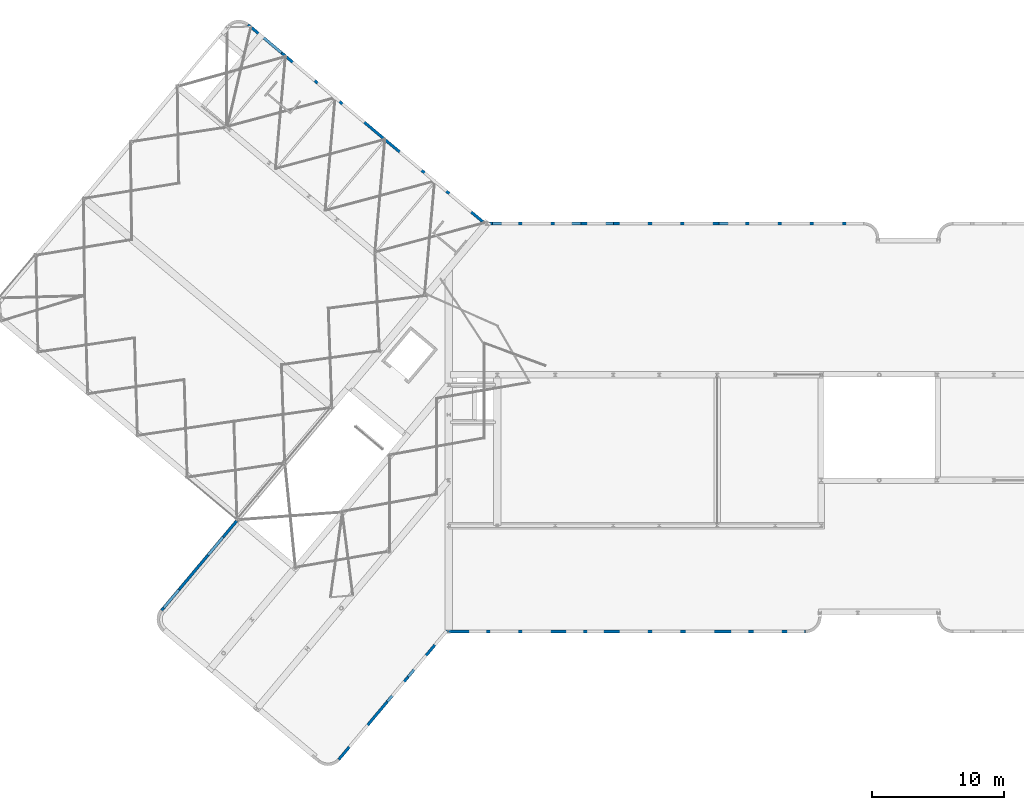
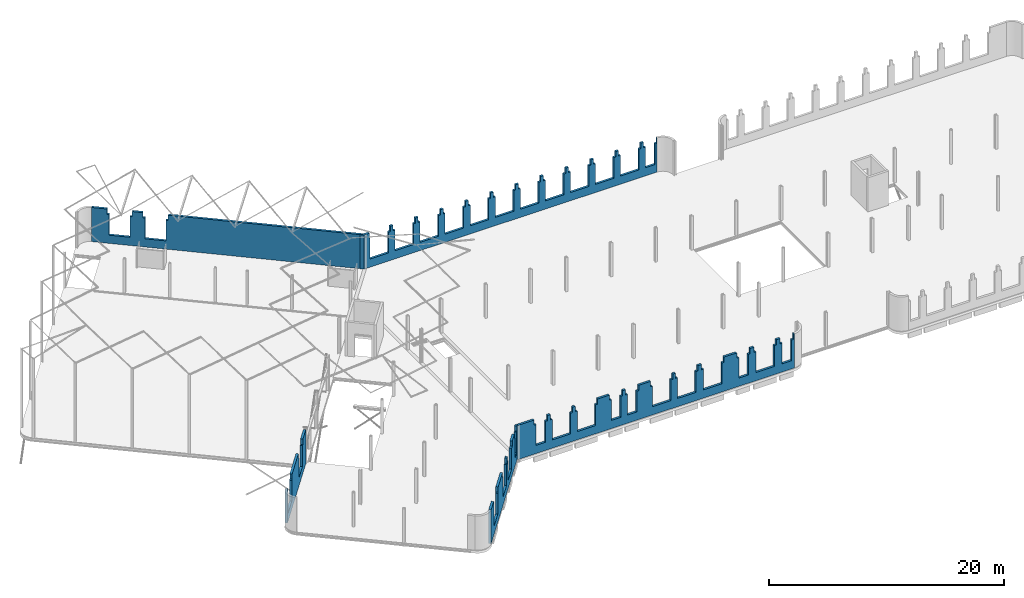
# One storey, part 24 of 25: 5 walls.
"""IFC2X3 building model written with IfcOpenShell, lengths in millimetres."""

from ifc_helpers import new_model, entity, si_unit, converted_unit, derived_unit, direction, frame, origin, place, context, subcontext, project, spatial, faceted_brep, material, layer, layer_set, type_object, element, save


model = new_model("IFC2X3")

# Units and contexts
model_context = context("Model", 3, precision=0.01, world=origin(), true_north=direction((6.123031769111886e-17, 1.0)))
body_context = subcontext(model_context, "Body", "Model", "MODEL_VIEW")
ifc_project = project(units=[si_unit("LENGTHUNIT", "METRE", prefix="MILLI"), si_unit("AREAUNIT", "SQUARE_METRE"), si_unit("VOLUMEUNIT", "CUBIC_METRE"), derived_unit("MASSDENSITYUNIT", [(si_unit("MASSUNIT", "GRAM", prefix="KILO"), 1), (si_unit("LENGTHUNIT", "METRE"), -3)]), si_unit("MASSUNIT", "GRAM", prefix="KILO"), converted_unit("PLANEANGLEUNIT", "DEGREE", entity("IfcPlaneAngleMeasure", 0.017453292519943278), si_unit("PLANEANGLEUNIT", "RADIAN"), dimensions=[0, 0, 0, 0, 0, 0, 0])], contexts=[model_context])

# Site, building, storey
site_placement = place(None, origin())
site = spatial("IfcSite", under=ifc_project, at=site_placement, Name="Default", CompositionType="ELEMENT")
building_placement = place(site_placement, origin())
building = spatial("IfcBuilding", under=site, at=building_placement, Name="AT constructie", CompositionType="ELEMENT")
storey_placement = place(building_placement, frame((0.0, 0.0, 3864.0)))
storey = spatial("IfcBuildingStorey", under=building, at=storey_placement, Name="01 eerste verdieping", CompositionType="ELEMENT", Elevation=3864.0)

# Walls
ifc_material = material(Name="f1_kalkzandsteen_CS20")
ifc_layer = layer(ifc_material, 214.0)
ifc_layer_set = layer_set([ifc_layer], Name="Basic Wall:NLRS_22_WA_kalkzandsteen 214_CS20_gen_AT")
wall_type = type_object("IfcWallType", Name="NLRS_22_WA_kalkzandsteen 214_CS20_gen_AT", PredefinedType="STANDARD", material=ifc_layer_set)
wall_1_placement = place(storey_placement, frame((43613.949732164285, 42764.04350852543, -50.0)))
element("IfcWall", 1, at=wall_1_placement, inside=storey, type_object=wall_type, Name="Basic Wall:NLRS_22_WA_kalkzandsteen 214_CS20_gen_AT", ObjectType="Basic Wall:NLRS_22_WA_kalkzandsteen 214_CS20_gen_AT", context=body_context, shape_type="Brep", body=[
    faceted_brep([(255.03526881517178, -107.0, 0.0), (29032.924898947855, -107.0, 0.0), (29032.924898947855, -107.0, 3544.0), (29027.92489894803, -107.0, 3544.0), (29027.92489894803, -107.0, 3000.0), (28837.924898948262, -107.0, 3000.0), (28837.924898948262, -107.0, 850.0), (27907.924898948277, -107.0, 850.0), (27907.924898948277, -107.0, 3000.0), (27717.924898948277, -107.0, 3000.0), (27717.924898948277, -107.0, 3544.0), (27447.924898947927, -107.0, 3544.0), (27447.924898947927, -107.0, 3000.0), (27257.92489894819, -107.0, 3000.0), (27257.92489894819, -107.0, 850.0), (25447.924898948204, -107.0, 850.0), (25447.924898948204, -107.0, 3000.0), (25257.924898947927, -107.0, 3000.0), (25257.924898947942, -107.0, 3544.0), (24987.924898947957, -107.0, 3544.0), (24987.924898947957, -107.0, 3000.0), (24797.92489894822, -107.0, 3000.0), (24797.92489894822, -107.0, 850.0), (22987.92489894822, -107.0, 850.0), (22987.92489894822, -107.0, 3000.0), (22797.924898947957, -107.0, 3000.0), (22797.924898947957, -107.0, 3544.0), (22527.924898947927, -107.0, 3544.0), (22527.924898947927, -107.0, 3000.0), (22337.92489894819, -107.0, 3000.0), (22337.92489894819, -107.0, 850.0), (20527.92489894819, -107.0, 850.0), (20527.92489894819, -107.0, 3000.0), (20337.92489894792, -107.0, 3000.0), (20337.92489894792, -107.0, 3544.0), (20067.924898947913, -107.0, 3544.0), (20067.924898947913, -107.0, 3000.0), (19877.924898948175, -107.0, 3000.0), (19877.924898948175, -107.0, 850.0), (18067.924898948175, -107.0, 850.0), (18067.924898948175, -107.0, 3000.0), (17877.924898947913, -107.0, 3000.0), (17877.924898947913, -107.0, 3544.0), (17607.924898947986, -107.0, 3544.0), (17607.924898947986, -107.0, 3000.0), (17417.924898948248, -107.0, 3000.0), (17417.924898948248, -107.0, 850.0), (15607.924898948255, -107.0, 850.0), (15607.924898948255, -107.0, 3000.0), (15417.924898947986, -107.0, 3000.0), (15417.924898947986, -107.0, 3544.0), (15147.924898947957, -107.0, 3544.0), (15147.924898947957, -107.0, 3000.0), (14957.924898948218, -107.0, 3000.0), (14957.924898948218, -107.0, 850.0), (13147.924898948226, -107.0, 850.0), (13147.924898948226, -107.0, 3000.0), (12957.924898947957, -107.0, 3000.0), (12957.924898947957, -107.0, 3544.0), (12687.924898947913, -107.0, 3544.0), (12687.924898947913, -107.0, 3000.0), (12497.924898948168, -107.0, 3000.0), (12497.924898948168, -107.0, 850.0), (10687.924898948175, -107.0, 850.0), (10687.924898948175, -107.0, 3000.0), (10497.924898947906, -107.0, 3000.0), (10497.924898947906, -107.0, 3544.0), (10227.924898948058, -107.0, 3544.0), (10227.924898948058, -107.0, 3000.0), (10037.924898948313, -107.0, 3000.0), (10037.924898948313, -107.0, 850.0), (8227.92489894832, -107.0, 850.0), (8227.92489894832, -107.0, 3000.0), (8037.92489894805, -107.0, 3000.0), (8037.92489894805, -107.0, 3544.0), (7767.924898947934, -107.0, 3544.0), (7767.924898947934, -107.0, 3000.0), (7577.924898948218, -107.0, 3000.0), (7577.924898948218, -107.0, 850.0), (5767.924898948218, -107.0, 850.0), (5767.924898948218, -107.0, 3000.0), (5577.924898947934, -107.0, 3000.0), (5577.924898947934, -107.0, 3544.0), (5307.924898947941, -107.0, 3544.0), (5307.924898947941, -107.0, 3000.0), (5117.924898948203, -107.0, 3000.0), (5117.924898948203, -107.0, 850.0), (3307.9248989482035, -107.0, 850.0), (3307.9248989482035, -107.0, 3000.0), (3117.9248989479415, -107.0, 3000.0), (3117.9248989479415, -107.0, 3544.0), (2847.924898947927, -107.0, 3544.0), (2847.924898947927, -107.0, 3000.0), (2657.9248989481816, -107.0, 3000.0), (2657.9248989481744, -107.0, 850.0), (847.9248989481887, -107.0, 850.0), (847.9248989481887, -107.0, 3000.0), (776.8000558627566, -107.0, 3000.0), (776.8000558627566, -107.0, 3544.0), (255.03526881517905, -107.0, 3544.0), (29032.924898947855, 107.0, 0.0), (332.9248989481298, 107.0, 0.0), (0.0, 107.0, 0.0), (0.0, 107.0, 3544.0), (332.92489894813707, 107.0, 3544.0), (776.8000558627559, 107.0, 3544.0), (776.8000558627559, 107.0, 3000.0), (847.924898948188, 107.0, 3000.0), (847.924898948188, 107.0, 850.0), (2657.9248989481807, 107.0, 850.0), (2657.9248989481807, 107.0, 3000.0), (2847.924898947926, 107.0, 3000.0), (2847.924898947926, 107.0, 3544.0), (3117.9248989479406, 107.0, 3544.0), (3117.9248989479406, 107.0, 3000.0), (3307.9248989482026, 107.0, 3000.0), (3307.9248989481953, 107.0, 850.0), (5117.924898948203, 107.0, 850.0), (5117.924898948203, 107.0, 3000.0), (5307.924898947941, 107.0, 3000.0), (5307.924898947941, 107.0, 3544.0), (5577.924898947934, 107.0, 3544.0), (5577.924898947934, 107.0, 3000.0), (5767.924898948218, 107.0, 3000.0), (5767.92489894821, 107.0, 850.0), (7577.924898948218, 107.0, 850.0), (7577.924898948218, 107.0, 3000.0), (7767.924898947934, 107.0, 3000.0), (7767.924898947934, 107.0, 3544.0), (8037.92489894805, 107.0, 3544.0), (8037.92489894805, 107.0, 3000.0), (8227.924898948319, 107.0, 3000.0), (8227.924898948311, 107.0, 850.0), (10037.924898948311, 107.0, 850.0), (10037.924898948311, 107.0, 3000.0), (10227.924898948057, 107.0, 3000.0), (10227.924898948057, 107.0, 3544.0), (10497.924898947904, 107.0, 3544.0), (10497.924898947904, 107.0, 3000.0), (10687.924898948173, 107.0, 3000.0), (10687.924898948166, 107.0, 850.0), (12497.924898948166, 107.0, 850.0), (12497.924898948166, 107.0, 3000.0), (12687.924898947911, 107.0, 3000.0), (12687.924898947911, 107.0, 3544.0), (12957.924898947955, 107.0, 3544.0), (12957.924898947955, 107.0, 3000.0), (13147.924898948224, 107.0, 3000.0), (13147.92489894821, 107.0, 850.0), (14957.924898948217, 107.0, 850.0), (14957.924898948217, 107.0, 3000.0), (15147.924898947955, 107.0, 3000.0), (15147.924898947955, 107.0, 3544.0), (15417.924898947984, 107.0, 3544.0), (15417.924898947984, 107.0, 3000.0), (15607.924898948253, 107.0, 3000.0), (15607.924898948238, 107.0, 850.0), (17417.924898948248, 107.0, 850.0), (17417.924898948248, 107.0, 3000.0), (17607.924898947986, 107.0, 3000.0), (17607.924898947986, 107.0, 3544.0), (17877.924898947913, 107.0, 3544.0), (17877.924898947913, 107.0, 3000.0), (18067.924898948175, 107.0, 3000.0), (18067.924898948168, 107.0, 850.0), (19877.924898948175, 107.0, 850.0), (19877.924898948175, 107.0, 3000.0), (20067.924898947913, 107.0, 3000.0), (20067.924898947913, 107.0, 3544.0), (20337.92489894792, 107.0, 3544.0), (20337.92489894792, 107.0, 3000.0), (20527.92489894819, 107.0, 3000.0), (20527.924898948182, 107.0, 850.0), (22337.92489894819, 107.0, 850.0), (22337.92489894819, 107.0, 3000.0), (22527.924898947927, 107.0, 3000.0), (22527.924898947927, 107.0, 3544.0), (22797.924898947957, 107.0, 3544.0), (22797.924898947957, 107.0, 3000.0), (22987.92489894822, 107.0, 3000.0), (22987.92489894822, 107.0, 850.0), (24797.92489894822, 107.0, 850.0), (24797.92489894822, 107.0, 3000.0), (24987.924898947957, 107.0, 3000.0), (24987.924898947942, 107.0, 3544.0), (25257.924898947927, 107.0, 3544.0), (25257.924898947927, 107.0, 3000.0), (25447.924898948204, 107.0, 3000.0), (25447.924898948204, 107.0, 850.0), (27257.92489894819, 107.0, 850.0), (27257.92489894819, 107.0, 3000.0), (27447.924898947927, 107.0, 3000.0), (27447.924898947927, 107.0, 3544.0), (27717.924898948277, 107.0, 3544.0), (27717.924898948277, 107.0, 3000.0), (27907.924898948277, 107.0, 3000.0), (27907.924898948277, 107.0, 850.0), (28837.924898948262, 107.0, 850.0), (28837.924898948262, 107.0, 3000.0), (29027.92489894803, 107.0, 3000.0), (29027.92489894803, 107.0, 3544.0), (29032.924898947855, 107.0, 3544.0)], [[[0, 1, 2, 3, 4, 5, 6, 7, 8, 9, 10, 11, 12, 13, 14, 15, 16, 17, 18, 19, 20, 21, 22, 23, 24, 25, 26, 27, 28, 29, 30, 31, 32, 33, 34, 35, 36, 37, 38, 39, 40, 41, 42, 43, 44, 45, 46, 47, 48, 49, 50, 51, 52, 53, 54, 55, 56, 57, 58, 59, 60, 61, 62, 63, 64, 65, 66, 67, 68, 69, 70, 71, 72, 73, 74, 75, 76, 77, 78, 79, 80, 81, 82, 83, 84, 85, 86, 87, 88, 89, 90, 91, 92, 93, 94, 95, 96, 97, 98, 99]], [[100, 101, 102, 103, 104, 105, 106, 107, 108, 109, 110, 111, 112, 113, 114, 115, 116, 117, 118, 119, 120, 121, 122, 123, 124, 125, 126, 127, 128, 129, 130, 131, 132, 133, 134, 135, 136, 137, 138, 139, 140, 141, 142, 143, 144, 145, 146, 147, 148, 149, 150, 151, 152, 153, 154, 155, 156, 157, 158, 159, 160, 161, 162, 163, 164, 165, 166, 167, 168, 169, 170, 171, 172, 173, 174, 175, 176, 177, 178, 179, 180, 181, 182, 183, 184, 185, 186, 187, 188, 189, 190, 191, 192, 193, 194, 195, 196, 197, 198, 199, 200, 201]], [[1, 0, 102, 101, 100]], [[2, 1, 100, 201]], [[18, 185, 184, 19]], [[94, 109, 108, 95]], [[109, 94, 93, 110]], [[95, 108, 107, 96]], [[0, 99, 103, 102]], [[88, 87, 116, 115]], [[86, 85, 118, 117]], [[80, 79, 124, 123]], [[78, 77, 126, 125]], [[72, 71, 132, 131]], [[70, 69, 134, 133]], [[64, 63, 140, 139]], [[62, 61, 142, 141]], [[56, 55, 148, 147]], [[54, 53, 150, 149]], [[48, 47, 156, 155]], [[46, 45, 158, 157]], [[40, 39, 164, 163]], [[38, 37, 166, 165]], [[32, 31, 172, 171]], [[30, 29, 174, 173]], [[24, 23, 180, 179]], [[22, 21, 182, 181]], [[16, 15, 188, 187]], [[14, 13, 190, 189]], [[116, 87, 86, 117]], [[124, 79, 78, 125]], [[132, 71, 70, 133]], [[140, 63, 62, 141]], [[148, 55, 54, 149]], [[156, 47, 46, 157]], [[164, 39, 38, 165]], [[172, 31, 30, 173]], [[180, 23, 22, 181]], [[188, 15, 14, 189]], [[17, 186, 185, 18]], [[191, 12, 11, 192]], [[186, 17, 16, 187]], [[25, 178, 177, 26]], [[183, 20, 19, 184]], [[178, 25, 24, 179]], [[33, 170, 169, 34]], [[175, 28, 27, 176]], [[170, 33, 32, 171]], [[41, 162, 161, 42]], [[167, 36, 35, 168]], [[162, 41, 40, 163]], [[49, 154, 153, 50]], [[159, 44, 43, 160]], [[154, 49, 48, 155]], [[57, 146, 145, 58]], [[151, 52, 51, 152]], [[146, 57, 56, 147]], [[65, 138, 137, 66]], [[143, 60, 59, 144]], [[138, 65, 64, 139]], [[73, 130, 129, 74]], [[135, 68, 67, 136]], [[130, 73, 72, 131]], [[81, 122, 121, 82]], [[127, 76, 75, 128]], [[122, 81, 80, 123]], [[89, 114, 113, 90]], [[119, 84, 83, 120]], [[114, 89, 88, 115]], [[97, 106, 105, 98]], [[111, 92, 91, 112]], [[106, 97, 96, 107]], [[6, 5, 198, 197]], [[7, 6, 197, 196]], [[8, 7, 196, 195]], [[9, 194, 193, 10]], [[199, 4, 3, 200]], [[194, 9, 8, 195]], [[4, 199, 198, 5]], [[92, 111, 110, 93]], [[84, 119, 118, 85]], [[76, 127, 126, 77]], [[68, 135, 134, 69]], [[60, 143, 142, 61]], [[52, 151, 150, 53]], [[44, 159, 158, 45]], [[36, 167, 166, 37]], [[28, 175, 174, 29]], [[20, 183, 182, 21]], [[12, 191, 190, 13]], [[26, 177, 176, 27]], [[34, 169, 168, 35]], [[42, 161, 160, 43]], [[50, 153, 152, 51]], [[58, 145, 144, 59]], [[66, 137, 136, 67]], [[74, 129, 128, 75]], [[82, 121, 120, 83]], [[90, 113, 112, 91]], [[2, 201, 200, 3]], [[192, 11, 10, 193]], [[103, 99, 98, 105, 104]]]),
])
wall_2_placement = place(storey_placement, frame((25914.3541657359, 57862.446200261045, -50.0), z_axis=(0.0, 0.0, 1.0), x_axis=(0.7660444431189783, -0.642787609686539, 0.0)))
element("IfcWall", 2, at=wall_2_placement, inside=storey, type_object=wall_type, Name="Basic Wall:NLRS_22_WA_kalkzandsteen 214_CS20_gen_AT", ObjectType="Basic Wall:NLRS_22_WA_kalkzandsteen 214_CS20_gen_AT", context=body_context, shape_type="Brep", body=[
    faceted_brep([(0.0, -107.0, 0.0), (23194.964731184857, -107.0, 0.0), (23194.964731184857, -107.0, 3544.0), (6610.0, -107.0, 3544.0), (6610.0, -107.0, 3000.0), (6420.0, -107.0, 3000.0), (6420.0, -107.0, 850.0), (4610.0, -107.0, 850.0), (4610.0, -107.0, 3000.0), (4420.0, -107.0, 3000.0), (4420.0, -107.0, 3544.0), (3510.0, -107.0, 3544.0), (3510.0, -107.0, 3000.0), (3320.0, -107.0, 3000.0), (3320.0, -107.0, 850.0), (1510.0, -107.0, 850.0), (1510.0, -107.0, 3000.0), (1320.0, -107.0, 3000.0), (1320.0, -107.0, 3544.0), (0.0, -107.0, 3544.0), (23450.0, 107.0, 0.0), (0.0, 107.0, 0.0), (0.0, 107.0, 3544.0), (1320.0, 107.0, 3544.0), (1320.0, 107.0, 3000.0), (1510.0, 107.0, 3000.0), (1510.0, 107.0, 850.0), (3320.0, 107.0, 850.0), (3320.0, 107.0, 3000.0), (3510.0, 107.0, 3000.0), (3510.0, 107.0, 3544.0), (4420.0, 107.0, 3544.0), (4420.0, 107.0, 3000.0), (4610.0, 107.0, 3000.0), (4610.0, 107.0, 850.0), (6420.0, 107.0, 850.0), (6420.0, 107.0, 3000.0), (6610.0, 107.0, 3000.0), (6610.0, 107.0, 3544.0), (23450.0, 107.0, 3544.0)], [[[0, 1, 2, 3, 4, 5, 6, 7, 8, 9, 10, 11, 12, 13, 14, 15, 16, 17, 18, 19]], [[20, 21, 22, 23, 24, 25, 26, 27, 28, 29, 30, 31, 32, 33, 34, 35, 36, 37, 38, 39]], [[1, 0, 21, 20]], [[2, 39, 38, 3]], [[0, 19, 22, 21]], [[2, 1, 20, 39]], [[8, 7, 34, 33]], [[6, 5, 36, 35]], [[34, 7, 6, 35]], [[9, 32, 31, 10]], [[37, 4, 3, 38]], [[32, 9, 8, 33]], [[26, 25, 16, 15]], [[27, 26, 15, 14]], [[28, 27, 14, 13]], [[17, 24, 23, 18]], [[29, 12, 11, 30]], [[24, 17, 16, 25]], [[12, 29, 28, 13]], [[4, 37, 36, 5]], [[10, 31, 30, 11]], [[22, 19, 18, 23]]]),
])
wall_3_placement = place(storey_placement, frame((68246.87463111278, 11778.043508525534, -50.0), z_axis=(0.0, 0.0, 1.0), x_axis=(-1.0, 0.0, 0.0)))
element("IfcWall", 3, at=wall_3_placement, inside=storey, type_object=wall_type, Name="Basic Wall:NLRS_22_WA_kalkzandsteen 214_CS20_gen_AT", ObjectType="Basic Wall:NLRS_22_WA_kalkzandsteen 214_CS20_gen_AT", context=body_context, shape_type="Brep", body=[
    faceted_brep([(0.0, -107.0, 0.0), (27064.091421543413, -107.0, 0.0), (27064.091421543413, -107.0, 3544.0), (25555.0, -107.0, 3544.0), (25555.0, -107.0, 3000.0), (25365.0, -107.0, 3000.0), (25365.0, -107.0, 850.0), (24435.0, -107.0, 850.0), (24435.0, -107.0, 3000.0), (24245.0, -107.0, 3000.0), (24245.0, -107.0, 3544.0), (23975.0, -107.0, 3544.0), (23975.0, -107.0, 3000.0), (23785.0, -107.0, 3000.0), (23785.0, -107.0, 850.0), (21975.0, -107.0, 850.0), (21975.0, -107.0, 3000.0), (21785.0, -107.0, 3000.0), (21785.0, -107.0, 3544.0), (21515.0, -107.0, 3544.0), (21515.0, -107.0, 3000.0), (21325.0, -107.0, 3000.0), (21325.0, -107.0, 850.0), (19515.0, -107.0, 850.0), (19515.0, -107.0, 3000.0), (19325.0, -107.0, 3000.0), (19325.0, -107.0, 3544.0), (18175.0, -107.0, 3544.0), (18175.0, -107.0, 3000.0), (17985.0, -107.0, 3000.0), (17985.0, -107.0, 850.0), (17055.0, -107.0, 850.0), (17055.0, -107.0, 3000.0), (16865.0, -107.0, 3000.0), (16865.0, -107.0, 3544.0), (16595.0, -107.0, 3544.0), (16595.0, -107.0, 3000.0), (16405.0, -107.0, 3000.0), (16405.0, -107.0, 850.0), (15475.0, -107.0, 850.0), (15475.0, -107.0, 3000.0), (15285.0, -107.0, 3000.0), (15285.0, -107.0, 3544.0), (14135.0, -107.0, 3544.0), (14135.0, -107.0, 3000.0), (13945.0, -107.0, 3000.0), (13945.0, -107.0, 850.0), (12135.0, -107.0, 850.0), (12135.0, -107.0, 3000.0), (11945.0, -107.0, 3000.0), (11945.0, -107.0, 3544.0), (11675.0, -107.0, 3544.0), (11675.0, -107.0, 3000.0), (11485.0, -107.0, 3000.0), (11485.0, -107.0, 850.0), (9675.0, -107.0, 850.0), (9675.0, -107.0, 3000.0), (9485.0, -107.0, 3000.0), (9485.0, -107.0, 3544.0), (9105.0, -107.0, 3544.0), (9105.0, -107.0, 3000.0), (8915.0, -107.0, 3000.0), (8915.0, -107.0, 850.0), (7105.0, -107.0, 850.0), (7105.0, -107.0, 3000.0), (6915.0, -107.0, 3000.0), (6915.0, -107.0, 3544.0), (5655.0, -107.0, 3544.0), (5655.0, -107.0, 3000.0), (5465.0, -107.0, 3000.0), (5465.0, -107.0, 850.0), (4535.0, -107.0, 850.0), (4535.0, -107.0, 3000.0), (4345.0, -107.0, 3000.0), (4345.0, -107.0, 3544.0), (3965.0, -107.0, 3544.0), (3965.0, -107.0, 3000.0), (3775.0, -107.0, 3000.0), (3775.0, -107.0, 850.0), (1965.0, -107.0, 850.0), (1965.0, -107.0, 3000.0), (1775.0, -107.0, 3000.0), (1775.0, -107.0, 3544.0), (1395.0, -107.0, 3544.0), (1395.0, -107.0, 3000.0), (1205.0, -107.0, 3000.0), (1205.0, -107.0, 850.0), (275.0, -107.0, 850.0), (275.0, -107.0, 3000.0), (85.0, -107.0, 3000.0), (85.0, -107.0, 3544.0), (0.0, -107.0, 3544.0), (27243.658742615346, 107.0, 0.0), (0.0, 107.0, 0.0), (0.0, 107.0, 3544.0), (85.0, 107.0, 3544.0), (85.0, 107.0, 3000.0), (275.0, 107.0, 3000.0), (275.0, 107.0, 850.0), (1205.0, 107.0, 850.0), (1205.0, 107.0, 3000.0), (1395.0, 107.0, 3000.0), (1395.0, 107.0, 3544.0), (1775.0, 107.0, 3544.0), (1775.0, 107.0, 3000.0), (1965.0, 107.0, 3000.0), (1965.0, 107.0, 850.0), (3775.0, 107.0, 850.0), (3775.0, 107.0, 3000.0), (3965.0, 107.0, 3000.0), (3965.0, 107.0, 3544.0), (4345.0, 107.0, 3544.0), (4345.0, 107.0, 3000.0), (4535.0, 107.0, 3000.0), (4535.0, 107.0, 850.0), (5465.0, 107.0, 850.0), (5465.0, 107.0, 3000.0), (5655.0, 107.0, 3000.0), (5655.0, 107.0, 3544.0), (6915.0, 107.0, 3544.0), (6915.0, 107.0, 3000.0), (7105.0, 107.0, 3000.0), (7105.0, 107.0, 850.0), (8915.0, 107.0, 850.0), (8915.0, 107.0, 3000.0), (9105.0, 107.0, 3000.0), (9105.0, 107.0, 3544.0), (9485.0, 107.0, 3544.0), (9485.0, 107.0, 3000.0), (9675.0, 107.0, 3000.0), (9675.0, 107.0, 850.0), (11485.0, 107.0, 850.0), (11485.0, 107.0, 3000.0), (11675.0, 107.0, 3000.0), (11675.0, 107.0, 3544.0), (11945.0, 107.0, 3544.0), (11945.0, 107.0, 3000.0), (12135.0, 107.0, 3000.0), (12135.0, 107.0, 850.0), (13945.0, 107.0, 850.0), (13945.0, 107.0, 3000.0), (14135.0, 107.0, 3000.0), (14135.0, 107.0, 3544.0), (15285.0, 107.0, 3544.0), (15285.0, 107.0, 3000.0), (15475.0, 107.0, 3000.0), (15475.0, 107.0, 850.0), (16405.0, 107.0, 850.0), (16405.0, 107.0, 3000.0), (16595.0, 107.0, 3000.0), (16595.0, 107.0, 3544.0), (16865.0, 107.0, 3544.0), (16865.0, 107.0, 3000.0), (17055.0, 107.0, 3000.0), (17055.0, 107.0, 850.0), (17985.0, 107.0, 850.0), (17985.0, 107.0, 3000.0), (18175.0, 107.0, 3000.0), (18175.0, 107.0, 3544.0), (19325.0, 107.0, 3544.0), (19325.0, 107.0, 3000.0), (19515.0, 107.0, 3000.0), (19515.0, 107.0, 850.0), (21325.0, 107.0, 850.0), (21325.0, 107.0, 3000.0), (21515.0, 107.0, 3000.0), (21515.0, 107.0, 3544.0), (21785.0, 107.0, 3544.0), (21785.0, 107.0, 3000.0), (21975.0, 107.0, 3000.0), (21975.0, 107.0, 850.0), (23785.0, 107.0, 850.0), (23785.0, 107.0, 3000.0), (23975.0, 107.0, 3000.0), (23975.0, 107.0, 3544.0), (24245.0, 107.0, 3544.0), (24245.0, 107.0, 3000.0), (24435.0, 107.0, 3000.0), (24435.0, 107.0, 850.0), (25365.0, 107.0, 850.0), (25365.0, 107.0, 3000.0), (25555.0, 107.0, 3000.0), (25555.0, 107.0, 3544.0), (27243.658742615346, 107.0, 3544.0)], [[[0, 1, 2, 3, 4, 5, 6, 7, 8, 9, 10, 11, 12, 13, 14, 15, 16, 17, 18, 19, 20, 21, 22, 23, 24, 25, 26, 27, 28, 29, 30, 31, 32, 33, 34, 35, 36, 37, 38, 39, 40, 41, 42, 43, 44, 45, 46, 47, 48, 49, 50, 51, 52, 53, 54, 55, 56, 57, 58, 59, 60, 61, 62, 63, 64, 65, 66, 67, 68, 69, 70, 71, 72, 73, 74, 75, 76, 77, 78, 79, 80, 81, 82, 83, 84, 85, 86, 87, 88, 89, 90, 91]], [[92, 93, 94, 95, 96, 97, 98, 99, 100, 101, 102, 103, 104, 105, 106, 107, 108, 109, 110, 111, 112, 113, 114, 115, 116, 117, 118, 119, 120, 121, 122, 123, 124, 125, 126, 127, 128, 129, 130, 131, 132, 133, 134, 135, 136, 137, 138, 139, 140, 141, 142, 143, 144, 145, 146, 147, 148, 149, 150, 151, 152, 153, 154, 155, 156, 157, 158, 159, 160, 161, 162, 163, 164, 165, 166, 167, 168, 169, 170, 171, 172, 173, 174, 175, 176, 177, 178, 179, 180, 181, 182, 183]], [[1, 0, 93, 92]], [[2, 183, 182, 3]], [[0, 91, 94, 93]], [[86, 99, 98, 87]], [[99, 86, 85, 100]], [[87, 98, 97, 88]], [[2, 1, 92, 183]], [[80, 79, 106, 105]], [[78, 77, 108, 107]], [[72, 71, 114, 113]], [[70, 69, 116, 115]], [[64, 63, 122, 121]], [[62, 61, 124, 123]], [[56, 55, 130, 129]], [[54, 53, 132, 131]], [[48, 47, 138, 137]], [[46, 45, 140, 139]], [[40, 39, 146, 145]], [[38, 37, 148, 147]], [[32, 31, 154, 153]], [[30, 29, 156, 155]], [[24, 23, 162, 161]], [[22, 21, 164, 163]], [[16, 15, 170, 169]], [[14, 13, 172, 171]], [[8, 7, 178, 177]], [[6, 5, 180, 179]], [[106, 79, 78, 107]], [[122, 63, 62, 123]], [[130, 55, 54, 131]], [[138, 47, 46, 139]], [[162, 23, 22, 163]], [[170, 15, 14, 171]], [[114, 71, 70, 115]], [[146, 39, 38, 147]], [[154, 31, 30, 155]], [[178, 7, 6, 179]], [[9, 176, 175, 10]], [[181, 4, 3, 182]], [[176, 9, 8, 177]], [[17, 168, 167, 18]], [[173, 12, 11, 174]], [[168, 17, 16, 169]], [[25, 160, 159, 26]], [[165, 20, 19, 166]], [[160, 25, 24, 161]], [[33, 152, 151, 34]], [[157, 28, 27, 158]], [[152, 33, 32, 153]], [[41, 144, 143, 42]], [[149, 36, 35, 150]], [[144, 41, 40, 145]], [[49, 136, 135, 50]], [[141, 44, 43, 142]], [[136, 49, 48, 137]], [[57, 128, 127, 58]], [[133, 52, 51, 134]], [[128, 57, 56, 129]], [[65, 120, 119, 66]], [[125, 60, 59, 126]], [[120, 65, 64, 121]], [[73, 112, 111, 74]], [[117, 68, 67, 118]], [[112, 73, 72, 113]], [[81, 104, 103, 82]], [[109, 76, 75, 110]], [[104, 81, 80, 105]], [[89, 96, 95, 90]], [[101, 84, 83, 102]], [[96, 89, 88, 97]], [[84, 101, 100, 85]], [[76, 109, 108, 77]], [[68, 117, 116, 69]], [[60, 125, 124, 61]], [[52, 133, 132, 53]], [[44, 141, 140, 45]], [[36, 149, 148, 37]], [[28, 157, 156, 29]], [[20, 165, 164, 21]], [[12, 173, 172, 13]], [[4, 181, 180, 5]], [[10, 175, 174, 11]], [[18, 167, 166, 19]], [[26, 159, 158, 27]], [[34, 151, 150, 35]], [[42, 143, 142, 43]], [[50, 135, 134, 51]], [[58, 127, 126, 59]], [[66, 119, 118, 67]], [[74, 111, 110, 75]], [[82, 103, 102, 83]], [[94, 91, 90, 95]]]),
])
wall_4_placement = place(storey_placement, frame((41100.81645415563, 11953.821782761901, -50.0), z_axis=(0.0, 0.0, 1.0), x_axis=(-0.6427876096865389, -0.7660444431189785, 0.0)))
element("IfcWall", 4, at=wall_4_placement, inside=storey, type_object=wall_type, Name="Basic Wall:NLRS_22_WA_kalkzandsteen 214_CS20_gen_AT", ObjectType="Basic Wall:NLRS_22_WA_kalkzandsteen 214_CS20_gen_AT", context=body_context, shape_type="Brep", body=[
    faceted_brep([(179.56732107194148, -107.0, 0.0), (12922.863182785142, -107.0, 0.0), (12922.863182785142, -107.0, 3544.0), (11681.62316770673, -107.0, 3544.0), (11681.623167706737, -107.0, 3000.0), (11491.623167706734, -107.0, 3000.0), (11491.623167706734, -107.0, 850.0), (9681.623167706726, -107.0, 850.0), (9681.623167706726, -107.0, 3000.0), (9491.623167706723, -107.0, 3000.0), (9491.623167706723, -107.0, 3544.0), (7362.784491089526, -107.0, 3544.0), (7362.784491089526, -107.0, 3000.0), (7172.784491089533, -107.0, 3000.0), (7172.784491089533, -107.0, 850.0), (5362.784491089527, -107.0, 850.0), (5362.784491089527, -107.0, 3000.0), (5172.78449108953, -107.0, 3000.0), (5172.784491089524, -107.0, 3544.0), (4902.7844910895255, -107.0, 3544.0), (4902.784491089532, -107.0, 3000.0), (4712.784491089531, -107.0, 3000.0), (4712.784491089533, -107.0, 850.0), (2902.784491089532, -107.0, 850.0), (2902.784491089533, -107.0, 3000.0), (2592.78449108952, -107.0, 3000.0), (2592.784491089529, -107.0, 3544.0), (1562.7844910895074, -107.0, 3544.0), (1562.7844910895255, -107.0, 3000.0), (1372.784491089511, -107.0, 3000.0), (1372.7844910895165, -107.0, 850.0), (442.7844910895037, -107.0, 850.0), (442.7844910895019, -107.0, 3000.0), (334.12899590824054, -107.0, 3000.0), (334.12899590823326, -107.0, 3544.0), (179.56732107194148, -107.0, 3544.0), (12926.6041457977, 107.0, 0.0), (279.35715991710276, 107.0, 0.0), (0.0, 107.0, 0.0), (0.0, 107.0, 3544.0), (279.35715991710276, 107.0, 3544.0), (334.1289959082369, 107.0, 3544.0), (334.1289959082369, 107.0, 3000.0), (442.78449108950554, 107.0, 3000.0), (442.78449108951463, 107.0, 850.0), (1372.7844910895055, 107.0, 850.0), (1372.7844910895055, 107.0, 3000.0), (1562.7844910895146, 107.0, 3000.0), (1562.7844910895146, 107.0, 3544.0), (2592.7844910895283, 107.0, 3544.0), (2592.784491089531, 107.0, 3000.0), (2902.784491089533, 107.0, 3000.0), (2902.7844910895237, 107.0, 850.0), (4712.784491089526, 107.0, 850.0), (4712.784491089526, 107.0, 3000.0), (4902.784491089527, 107.0, 3000.0), (4902.784491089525, 107.0, 3544.0), (5172.784491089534, 107.0, 3544.0), (5172.784491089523, 107.0, 3000.0), (5362.784491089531, 107.0, 3000.0), (5362.784491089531, 107.0, 850.0), (7172.784491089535, 107.0, 850.0), (7172.784491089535, 107.0, 3000.0), (7362.784491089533, 107.0, 3000.0), (7362.784491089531, 107.0, 3544.0), (9491.62316770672, 107.0, 3544.0), (9491.623167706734, 107.0, 3000.0), (9681.62316770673, 107.0, 3000.0), (9681.62316770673, 107.0, 850.0), (11491.623167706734, 107.0, 850.0), (11491.623167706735, 107.0, 3000.0), (11681.62316770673, 107.0, 3000.0), (11681.62316770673, 107.0, 3544.0), (12926.6041457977, 107.0, 3544.0)], [[[0, 1, 2, 3, 4, 5, 6, 7, 8, 9, 10, 11, 12, 13, 14, 15, 16, 17, 18, 19, 20, 21, 22, 23, 24, 25, 26, 27, 28, 29, 30, 31, 32, 33, 34, 35]], [[36, 37, 38, 39, 40, 41, 42, 43, 44, 45, 46, 47, 48, 49, 50, 51, 52, 53, 54, 55, 56, 57, 58, 59, 60, 61, 62, 63, 64, 65, 66, 67, 68, 69, 70, 71, 72, 73]], [[1, 0, 38, 37, 36]], [[2, 73, 72, 3]], [[0, 35, 39, 38]], [[2, 1, 36, 73]], [[32, 31, 44, 43]], [[30, 29, 46, 45]], [[24, 23, 52, 51]], [[22, 21, 54, 53]], [[16, 15, 60, 59]], [[14, 13, 62, 61]], [[8, 7, 68, 67]], [[6, 5, 70, 69]], [[68, 7, 6, 69]], [[44, 31, 30, 45]], [[52, 23, 22, 53]], [[60, 15, 14, 61]], [[9, 66, 65, 10]], [[71, 4, 3, 72]], [[66, 9, 8, 67]], [[17, 58, 57, 18]], [[63, 12, 11, 64]], [[58, 17, 16, 59]], [[25, 50, 49, 26]], [[55, 20, 19, 56]], [[50, 25, 24, 51]], [[33, 42, 41, 34]], [[47, 28, 27, 48]], [[42, 33, 32, 43]], [[28, 47, 46, 29]], [[20, 55, 54, 21]], [[12, 63, 62, 13]], [[4, 71, 70, 5]], [[10, 65, 64, 11]], [[18, 57, 56, 19]], [[26, 49, 48, 27]], [[39, 35, 34, 41, 40]]]),
])
wall_5_placement = place(storey_placement, frame((25066.606900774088, 20203.954162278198, -50.0), z_axis=(0.0, 0.0, 1.0), x_axis=(-0.6427876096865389, -0.7660444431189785, 0.0)))
element("IfcWall", 5, at=wall_5_placement, inside=storey, type_object=wall_type, Name="Basic Wall:NLRS_22_WA_kalkzandsteen 214_CS20_gen_AT", ObjectType="Basic Wall:NLRS_22_WA_kalkzandsteen 214_CS20_gen_AT", context=body_context, shape_type="Brep", body=[
    faceted_brep([(0.0, -107.0, 0.0), (8900.0, -107.0, 0.0), (8900.0, -107.0, 3544.0), (8844.999999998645, -107.0, 3544.0), (8844.999999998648, -107.0, 3000.0), (8654.999999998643, -107.0, 3000.0), (8654.999999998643, -107.0, 850.0), (6844.999999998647, -107.0, 850.0), (6844.999999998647, -107.0, 3000.0), (6654.999999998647, -107.0, 3000.0), (6654.999999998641, -107.0, 3544.0), (3627.00262292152, -107.0, 3544.0), (3627.002622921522, -107.0, 3000.0), (3437.00262292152, -107.0, 3000.0), (3437.002622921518, -107.0, 850.0), (1627.0026229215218, -107.0, 850.0), (1627.0026229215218, -107.0, 3000.0), (1437.0026229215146, -107.0, 3000.0), (1437.0026229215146, -107.0, 3544.0), (0.0, -107.0, 3544.0), (8900.0, 107.0, 0.0), (0.0, 107.0, 0.0), (0.0, 107.0, 3544.0), (1437.0026229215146, 107.0, 3544.0), (1437.0026229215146, 107.0, 3000.0), (1627.0026229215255, 107.0, 3000.0), (1627.00262292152, 107.0, 850.0), (3437.0026229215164, 107.0, 850.0), (3437.0026229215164, 107.0, 3000.0), (3627.0026229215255, 107.0, 3000.0), (3627.0026229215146, 107.0, 3544.0), (6654.9999999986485, 107.0, 3544.0), (6654.999999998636, 107.0, 3000.0), (6844.99999999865, 107.0, 3000.0), (6844.99999999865, 107.0, 850.0), (8654.99999999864, 107.0, 850.0), (8654.99999999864, 107.0, 3000.0), (8844.999999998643, 107.0, 3000.0), (8844.999999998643, 107.0, 3544.0), (8900.0, 107.0, 3544.0)], [[[0, 1, 2, 3, 4, 5, 6, 7, 8, 9, 10, 11, 12, 13, 14, 15, 16, 17, 18, 19]], [[20, 21, 22, 23, 24, 25, 26, 27, 28, 29, 30, 31, 32, 33, 34, 35, 36, 37, 38, 39]], [[1, 0, 21, 20]], [[2, 1, 20, 39]], [[10, 31, 30, 11]], [[0, 19, 22, 21]], [[16, 15, 26, 25]], [[14, 13, 28, 27]], [[8, 7, 34, 33]], [[6, 5, 36, 35]], [[34, 7, 6, 35]], [[26, 15, 14, 27]], [[9, 32, 31, 10]], [[37, 4, 3, 38]], [[32, 9, 8, 33]], [[17, 24, 23, 18]], [[29, 12, 11, 30]], [[24, 17, 16, 25]], [[12, 29, 28, 13]], [[4, 37, 36, 5]], [[2, 39, 38, 3]], [[22, 19, 18, 23]]]),
])

save(model, "model.ifc")
